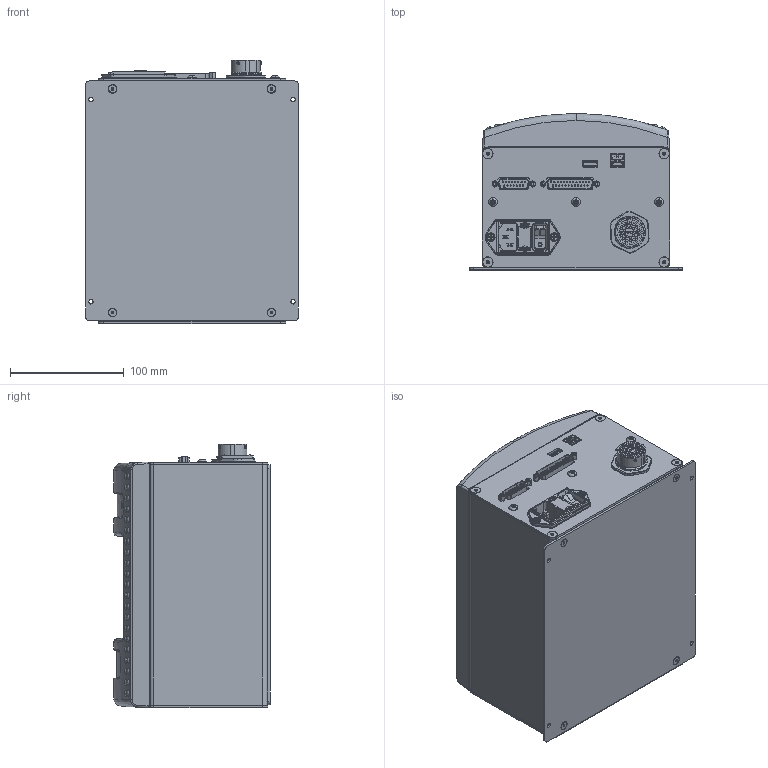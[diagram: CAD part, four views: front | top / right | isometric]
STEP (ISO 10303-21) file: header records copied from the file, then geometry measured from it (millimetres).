
FILE_DESCRIPTION (( 'STEP AP214' ), '1' );
FILE_NAME ('BOXX.STEP', '2011-01-19T14:27:16', ( ' ' ), ( ' ' ), 'SwSTEP 2.0', 'SolidWorks 2011', '' );
FILE_SCHEMA (( 'AUTOMOTIVE_DESIGN' ));
Length unit declared in the file: inch
Products named in the file (1): BOXX
Bounding box: 187.32 x 137.51 x 231.67 mm (x, y, z)
Surface area: 291910.6 mm2 (no closed solid volume)
Topology: 0 solids, 82 shells, 1393 faces, 4470 edges, 3199 vertices
Faces by surface type: plane 517, cylinder 411, sphere 174, cone 169, bspline 84, torus 38
Entity records: 78819 total; most frequent: CARTESIAN_POINT 22504, DIRECTION 7865, ORIENTED_EDGE 6991, EDGE_CURVE 4466, VERTEX_POINT 3199, AXIS2_PLACEMENT_3D 2791, LINE 2283, VECTOR 2283
